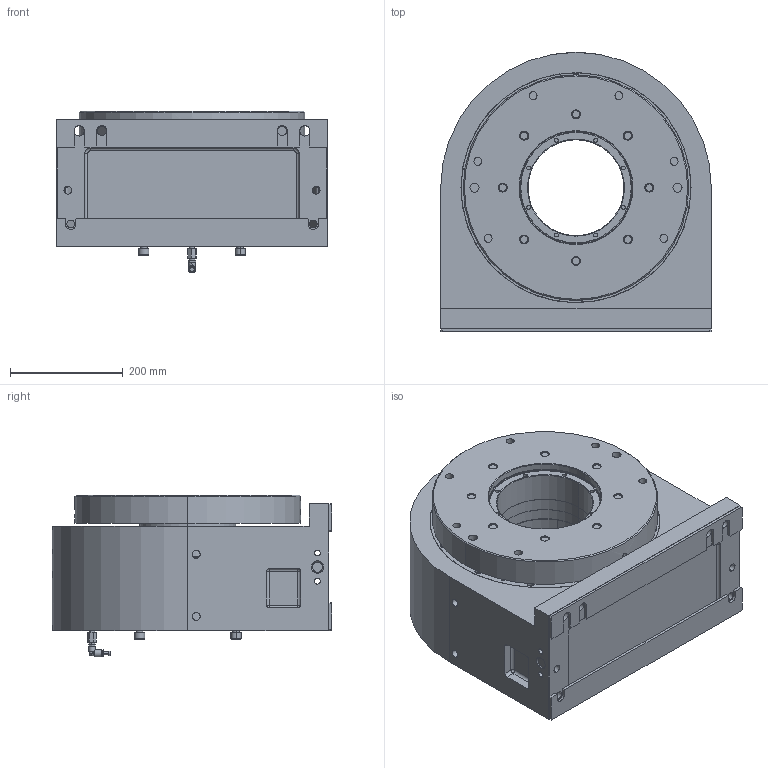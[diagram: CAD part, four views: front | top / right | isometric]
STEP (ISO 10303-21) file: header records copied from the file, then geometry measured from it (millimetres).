
FILE_DESCRIPTION (( 'STEP AP203' ), '1' );
FILE_NAME ('35162392　ST400-10.STEP', '2020-12-05T05:10:06', ( '' ), ( '' ), 'SwSTEP 2.0', 'SolidWorks 2019', '' );
FILE_SCHEMA (( 'CONFIG_CONTROL_DESIGN' ));
Length unit declared in the file: millimetre
Products named in the file (1): 35162392　ST400-10
Bounding box: 480 x 495 x 286.55 mm (x, y, z)
Surface area: 1228458.9 mm2 (no closed solid volume)
Topology: 0 solids, 48 shells, 602 faces, 1672 edges, 1128 vertices
Faces by surface type: cylinder 256, plane 210, cone 91, torus 37, sphere 8
Entity records: 20429 total; most frequent: CARTESIAN_POINT 4390, DIRECTION 3640, ORIENTED_EDGE 2877, EDGE_CURVE 1664, AXIS2_PLACEMENT_3D 1444, VERTEX_POINT 1128, CIRCLE 841, EDGE_LOOP 777
